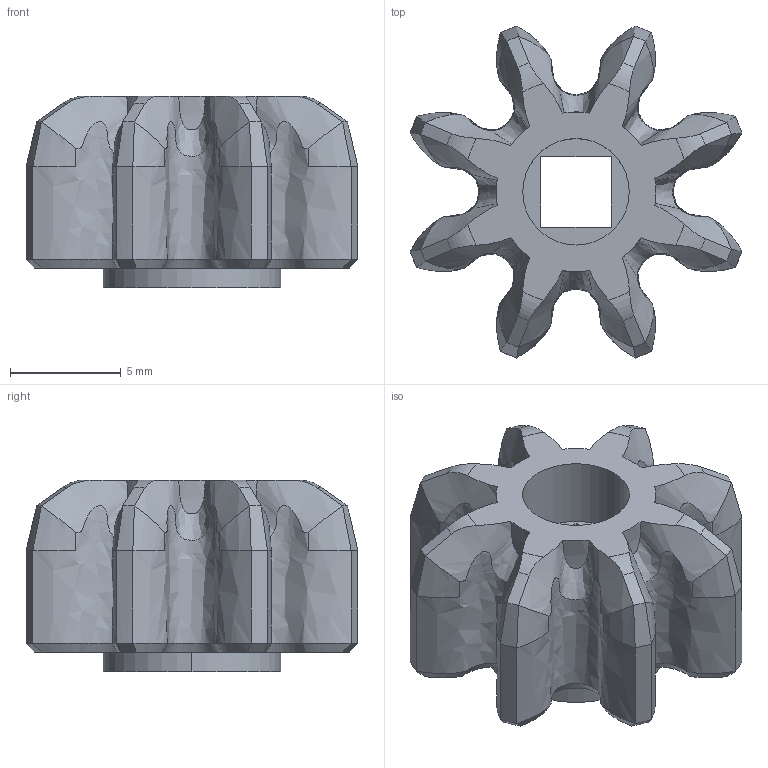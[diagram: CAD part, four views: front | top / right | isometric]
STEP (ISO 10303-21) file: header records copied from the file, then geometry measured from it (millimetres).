
FILE_DESCRIPTION (( 'STEP AP214' ), '1' );
FILE_NAME ('228-2500-2180.STEP', '2021-02-18T20:21:24', ( '' ), ( '' ), 'SwSTEP 2.0', 'SolidWorks 2019', '' );
FILE_SCHEMA (( 'AUTOMOTIVE_DESIGN' ));
Length unit declared in the file: millimetre
Products named in the file (1): 228-2500-2180
Bounding box: 14.95 x 14.95 x 8.64 mm (x, y, z)
Volume: 798.5 mm3; surface area: 881 mm2
Topology: 1 solids, 1 shells, 104 faces, 265 edges, 166 vertices
Faces by surface type: bspline 48, cylinder 23, cone 16, plane 9, torus 8
Entity records: 22013 total; most frequent: CARTESIAN_POINT 19891, ORIENTED_EDGE 530, DIRECTION 271, EDGE_CURVE 265, VERTEX_POINT 166, B_SPLINE_CURVE_WITH_KNOTS 161, AXIS2_PLACEMENT_3D 110, EDGE_LOOP 109
